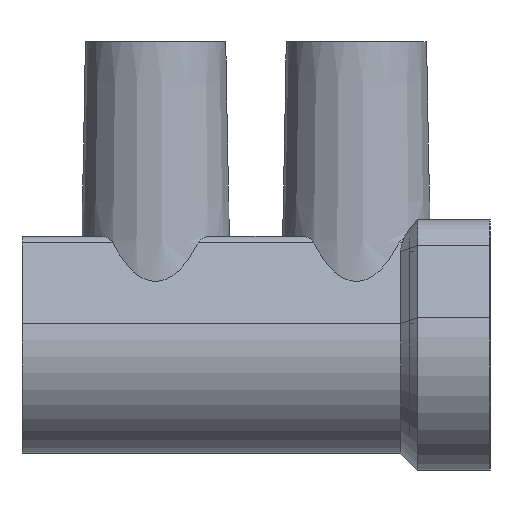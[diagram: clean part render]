
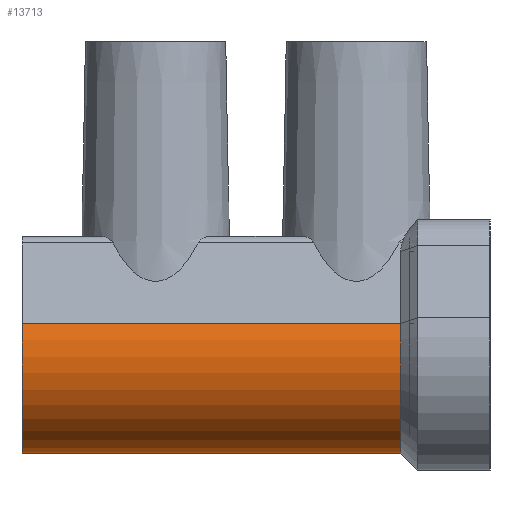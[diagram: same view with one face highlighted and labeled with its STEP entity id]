
A CAD part, left-side view. The second image highlights one B-rep face of the part: STEP entity #13713.
In plain terms, the highlighted cylindrical face has radius 4.8 mm (diameter 9.6 mm), a partial arc.
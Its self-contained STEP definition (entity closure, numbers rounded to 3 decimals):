
#1970=LINE('',#23191,#3210);
#1991=LINE('',#23235,#3231);
#1992=LINE('',#23239,#3232);
#1993=LINE('',#23243,#3233);
#3210=VECTOR('',#18667,1000.);
#3231=VECTOR('',#18710,1000.);
#3232=VECTOR('',#18713,1000.);
#3233=VECTOR('',#18716,1000.);
#6950=ORIENTED_EDGE('',*,*,#9033,.F.);
#6951=ORIENTED_EDGE('',*,*,#9043,.T.);
#6952=ORIENTED_EDGE('',*,*,#9044,.T.);
#6953=ORIENTED_EDGE('',*,*,#9045,.F.);
#6954=ORIENTED_EDGE('',*,*,#9046,.T.);
#6955=ORIENTED_EDGE('',*,*,#9047,.T.);
#6956=ORIENTED_EDGE('',*,*,#9038,.F.);
#6957=ORIENTED_EDGE('',*,*,#9020,.F.);
#9020=EDGE_CURVE('',#10370,#10372,#1970,.F.);
#9033=EDGE_CURVE('',#10380,#10370,#10908,.T.);
#9038=EDGE_CURVE('',#10372,#10383,#10909,.T.);
#9043=EDGE_CURVE('',#10380,#10384,#1991,.T.);
#9044=EDGE_CURVE('',#10384,#10385,#10910,.T.);
#9045=EDGE_CURVE('',#10386,#10385,#1992,.T.);
#9046=EDGE_CURVE('',#10386,#10387,#10911,.F.);
#9047=EDGE_CURVE('',#10387,#10383,#1993,.T.);
#10370=VERTEX_POINT('',#23189);
#10372=VERTEX_POINT('',#23192);
#10380=VERTEX_POINT('',#23215);
#10383=VERTEX_POINT('',#23226);
#10384=VERTEX_POINT('',#23236);
#10385=VERTEX_POINT('',#23238);
#10386=VERTEX_POINT('',#23240);
#10387=VERTEX_POINT('',#23242);
#10908=CIRCLE('',#14995,4.8);
#10909=CIRCLE('',#14998,4.8);
#10910=CIRCLE('',#15003,4.8);
#10911=CIRCLE('',#15004,4.8);
#11804=EDGE_LOOP('',(#6950,#6951,#6952,#6953,#6954,#6955,#6956,#6957));
#12728=FACE_BOUND('',#11804,.T.);
#12981=CYLINDRICAL_SURFACE('',#15002,4.8);
#13713=ADVANCED_FACE('',(#12728),#12981,.T.);
#14995=AXIS2_PLACEMENT_3D('',#23216,#18686,#18687);
#14998=AXIS2_PLACEMENT_3D('',#23225,#18696,#18697);
#15002=AXIS2_PLACEMENT_3D('',#23234,#18708,#18709);
#15003=AXIS2_PLACEMENT_3D('',#23237,#18711,#18712);
#15004=AXIS2_PLACEMENT_3D('',#23241,#18714,#18715);
#18667=DIRECTION('',(0.,-1.,0.));
#18686=DIRECTION('',(0.,1.,0.));
#18687=DIRECTION('',(0.,0.,1.));
#18696=DIRECTION('',(0.,-1.,0.));
#18697=DIRECTION('',(0.,0.,-1.));
#18708=DIRECTION('',(0.,-1.,0.));
#18709=DIRECTION('',(0.,0.,-1.));
#18710=DIRECTION('',(0.,-1.,0.));
#18711=DIRECTION('',(0.,1.,0.));
#18712=DIRECTION('',(0.938,0.,0.345));
#18713=DIRECTION('',(0.,-1.,0.));
#18714=DIRECTION('',(0.,1.,0.));
#18715=DIRECTION('',(0.,0.,1.));
#18716=DIRECTION('',(0.,-1.,0.));
#23189=CARTESIAN_POINT('',(3.,8.3,-4.347));
#23191=CARTESIAN_POINT('',(3.,35.376,-4.347));
#23192=CARTESIAN_POINT('',(3.,14.3,-4.347));
#23215=CARTESIAN_POINT('',(4.505,8.3,1.057));
#23216=CARTESIAN_POINT('',(0.,8.3,-0.6));
#23225=CARTESIAN_POINT('',(0.,14.3,-0.6));
#23226=CARTESIAN_POINT('',(4.505,14.3,1.057));
#23234=CARTESIAN_POINT('',(0.,35.376,-0.6));
#23235=CARTESIAN_POINT('',(4.505,35.376,1.057));
#23236=CARTESIAN_POINT('',(4.505,4.45,1.057));
#23237=CARTESIAN_POINT('',(0.,4.45,-0.6));
#23238=CARTESIAN_POINT('',(-4.505,4.45,1.057));
#23239=CARTESIAN_POINT('',(-4.505,35.376,1.057));
#23240=CARTESIAN_POINT('',(-4.505,23.3,1.057));
#23241=CARTESIAN_POINT('',(0.,23.3,-0.6));
#23242=CARTESIAN_POINT('',(4.505,23.3,1.057));
#23243=CARTESIAN_POINT('',(4.505,35.376,1.057));
